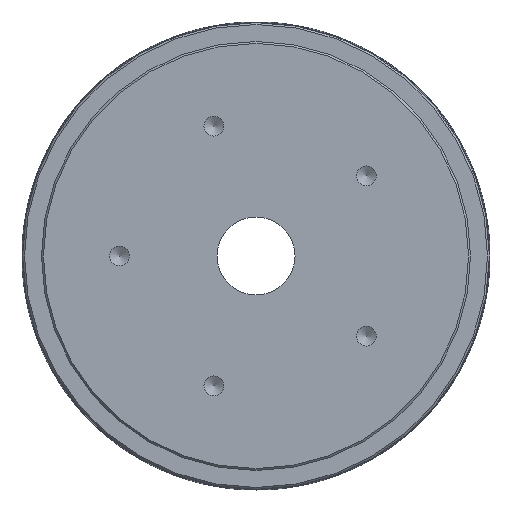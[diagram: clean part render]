
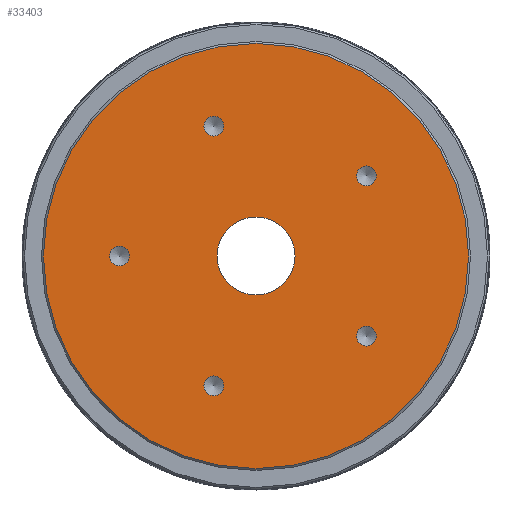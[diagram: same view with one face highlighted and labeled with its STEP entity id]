
A CAD part, left-side view. The second image highlights one B-rep face of the part: STEP entity #33403.
In plain terms, the highlighted planar face has unit normal (-1, 0, 0).
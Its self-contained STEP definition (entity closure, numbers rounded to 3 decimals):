
#2305=FACE_BOUND('',#5846,.T.);
#2306=FACE_BOUND('',#5847,.T.);
#2307=FACE_BOUND('',#5848,.T.);
#2308=FACE_BOUND('',#5849,.T.);
#2309=FACE_BOUND('',#5850,.T.);
#2310=FACE_BOUND('',#5851,.T.);
#2348=PLANE('',#35233);
#4065=FACE_OUTER_BOUND('',#5845,.T.);
#5845=EDGE_LOOP('',(#21288));
#5846=EDGE_LOOP('',(#21289));
#5847=EDGE_LOOP('',(#21290));
#5848=EDGE_LOOP('',(#21291));
#5849=EDGE_LOOP('',(#21292));
#5850=EDGE_LOOP('',(#21293));
#5851=EDGE_LOOP('',(#21294));
#11550=CIRCLE('',#35209,20.);
#11566=CIRCLE('',#35234,109.);
#11567=CIRCLE('',#35235,5.053);
#11568=CIRCLE('',#35236,5.053);
#11569=CIRCLE('',#35237,5.053);
#11570=CIRCLE('',#35238,5.053);
#11571=CIRCLE('',#35239,5.053);
#12560=VERTEX_POINT('',#51875);
#12600=VERTEX_POINT('',#52078);
#12601=VERTEX_POINT('',#52080);
#12602=VERTEX_POINT('',#52082);
#12603=VERTEX_POINT('',#52084);
#12604=VERTEX_POINT('',#52086);
#12605=VERTEX_POINT('',#52088);
#16019=EDGE_CURVE('',#12560,#12560,#11550,.T.);
#16064=EDGE_CURVE('',#12600,#12600,#11566,.T.);
#16065=EDGE_CURVE('',#12601,#12601,#11567,.T.);
#16066=EDGE_CURVE('',#12602,#12602,#11568,.T.);
#16067=EDGE_CURVE('',#12603,#12603,#11569,.T.);
#16068=EDGE_CURVE('',#12604,#12604,#11570,.T.);
#16069=EDGE_CURVE('',#12605,#12605,#11571,.T.);
#21288=ORIENTED_EDGE('',*,*,#16064,.F.);
#21289=ORIENTED_EDGE('',*,*,#16065,.T.);
#21290=ORIENTED_EDGE('',*,*,#16066,.T.);
#21291=ORIENTED_EDGE('',*,*,#16067,.T.);
#21292=ORIENTED_EDGE('',*,*,#16068,.T.);
#21293=ORIENTED_EDGE('',*,*,#16069,.T.);
#21294=ORIENTED_EDGE('',*,*,#16019,.T.);
#33403=ADVANCED_FACE('',(#4065,#2305,#2306,#2307,#2308,#2309,#2310),#2348,
 .T.);
#35209=AXIS2_PLACEMENT_3D('',#51877,#40129,#40130);
#35233=AXIS2_PLACEMENT_3D('',#52077,#40194,#40195);
#35234=AXIS2_PLACEMENT_3D('',#52079,#40196,#40197);
#35235=AXIS2_PLACEMENT_3D('',#52081,#40198,#40199);
#35236=AXIS2_PLACEMENT_3D('',#52083,#40200,#40201);
#35237=AXIS2_PLACEMENT_3D('',#52085,#40202,#40203);
#35238=AXIS2_PLACEMENT_3D('',#52087,#40204,#40205);
#35239=AXIS2_PLACEMENT_3D('',#52089,#40206,#40207);
#40129=DIRECTION('center_axis',(1.,0.,0.));
#40130=DIRECTION('ref_axis',(0.,1.,0.));
#40194=DIRECTION('center_axis',(-1.,0.,0.));
#40195=DIRECTION('ref_axis',(0.,0.,1.));
#40196=DIRECTION('center_axis',(1.,0.,0.));
#40197=DIRECTION('ref_axis',(0.,-1.,0.));
#40198=DIRECTION('center_axis',(1.,0.,0.));
#40199=DIRECTION('ref_axis',(0.,0.,1.));
#40200=DIRECTION('center_axis',(1.,0.,0.));
#40201=DIRECTION('ref_axis',(0.,0.,1.));
#40202=DIRECTION('center_axis',(1.,0.,0.));
#40203=DIRECTION('ref_axis',(0.,0.,1.));
#40204=DIRECTION('center_axis',(1.,0.,0.));
#40205=DIRECTION('ref_axis',(0.,0.,1.));
#40206=DIRECTION('center_axis',(1.,0.,0.));
#40207=DIRECTION('ref_axis',(0.,0.,1.));
#51875=CARTESIAN_POINT('',(-18.,-20.,0.));
#51877=CARTESIAN_POINT('Origin',(-18.,0.,0.));
#52077=CARTESIAN_POINT('Origin',(-18.,65.,0.));
#52078=CARTESIAN_POINT('',(-18.,109.,0.));
#52079=CARTESIAN_POINT('Origin',(-18.,0.,0.));
#52080=CARTESIAN_POINT('',(-18.,21.631,61.521));
#52081=CARTESIAN_POINT('Origin',(-18.,21.631,66.574));
#52082=CARTESIAN_POINT('',(-18.,-56.631,36.092));
#52083=CARTESIAN_POINT('Origin',(-18.,-56.631,41.145));
#52084=CARTESIAN_POINT('',(-18.,-56.631,-46.198));
#52085=CARTESIAN_POINT('Origin',(-18.,-56.631,-41.145));
#52086=CARTESIAN_POINT('',(-18.,21.631,-71.627));
#52087=CARTESIAN_POINT('Origin',(-18.,21.631,-66.574));
#52088=CARTESIAN_POINT('',(-18.,70.,-5.053));
#52089=CARTESIAN_POINT('Origin',(-18.,70.,0.));
